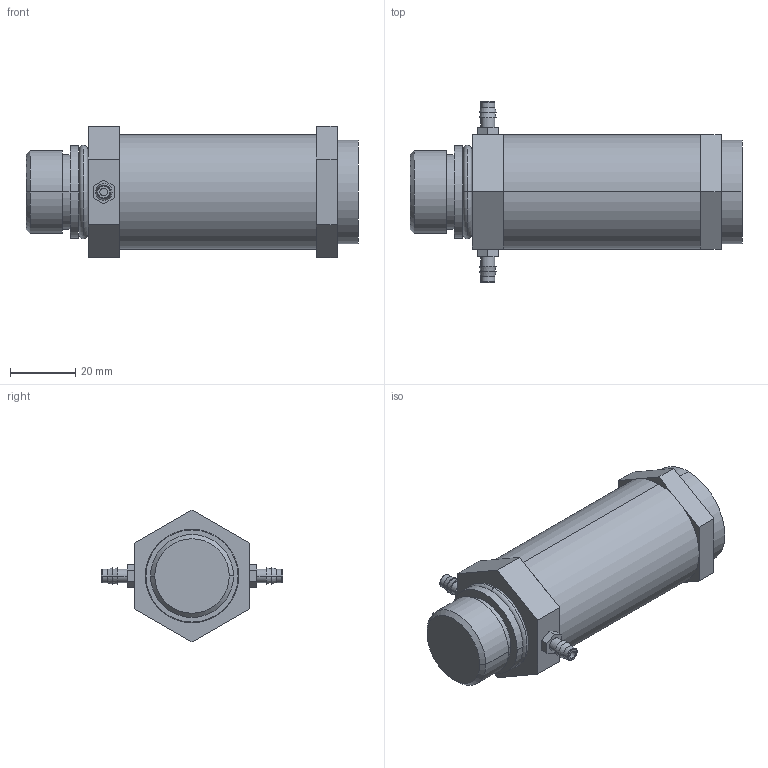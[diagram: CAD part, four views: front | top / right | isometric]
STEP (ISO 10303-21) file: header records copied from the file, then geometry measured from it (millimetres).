
FILE_DESCRIPTION((''),'2;1');
FILE_NAME('XGR3_ASM','2017-08-24T',('jennifer.elliott'),('CenterLine (Windsor) Ltd - Automation Components Division'),'PRO/ENGINEER BY PARAMETRIC TECHNOLOGY CORPORATION, 2015030','PRO/ENGINEER BY PARAMETRIC TECHNOLOGY CORPORATION, 2015030','');
FILE_SCHEMA(('AUTOMOTIVE_DESIGN { 1 0 10303 214 1 1 1 1 }'));
Length unit declared in the file: inch
Products named in the file (8): PRT1127; PRT1128; PRT1129; PRT1130; PRT1131; PRT1132; PRT1133; XGR3_ASM
Assembly tree (7 placements, depth 2):
  XGR3_ASM
    PRT1127
    PRT1128
    PRT1129
    PRT1130
    PRT1131
    PRT1132
    PRT1133
Bounding box: 101.6 x 55.55 x 40.33 mm (x, y, z)
Volume: 89844.6 mm3; surface area: 20172 mm2
Topology: 7 solids, 7 shells, 92 faces, 192 edges, 122 vertices
Faces by surface type: plane 46, cylinder 24, torus 12, cone 10
Entity records: 2980 total; most frequent: DIRECTION 492, CARTESIAN_POINT 443, ORIENTED_EDGE 384, AXIS2_PLACEMENT_3D 193, EDGE_CURVE 192, VERTEX_POINT 122, VECTOR 106, LINE 106
